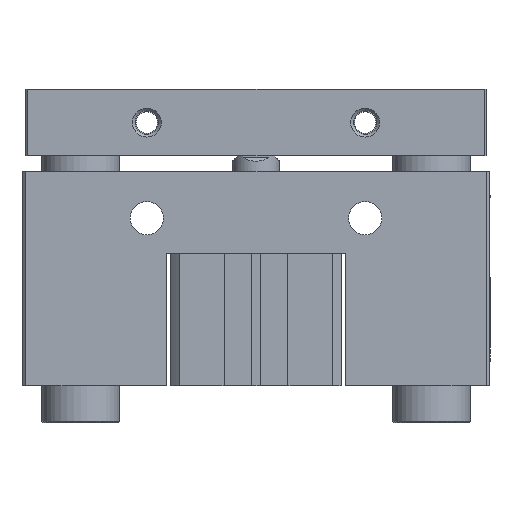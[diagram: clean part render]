
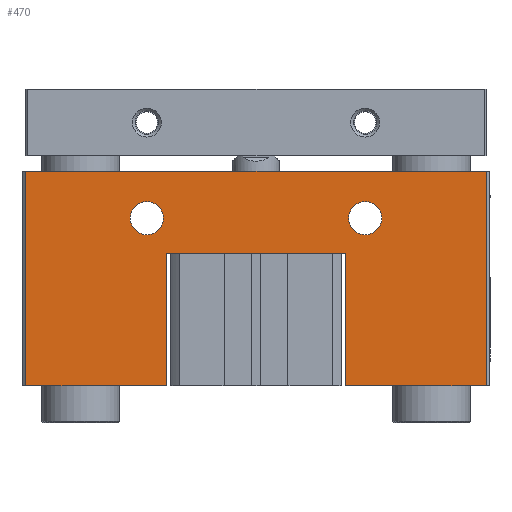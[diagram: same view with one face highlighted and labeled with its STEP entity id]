
A CAD part, front view. The second image highlights one B-rep face of the part: STEP entity #470.
In plain terms, the highlighted planar face has unit normal (0, -1, 0).
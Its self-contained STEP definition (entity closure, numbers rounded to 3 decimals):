
#199=CARTESIAN_POINT('',(-62.726,-23.62,55.));
#200=VERTEX_POINT('',#199);
#207=CARTESIAN_POINT('',(55.274,-23.62,55.));
#208=VERTEX_POINT('',#207);
#209=CARTESIAN_POINT('',(-62.726,-23.62,55.));
#210=DIRECTION('',(1.0,0.0,0.0));
#211=VECTOR('',#210,118.);
#212=LINE('',#209,#211);
#213=EDGE_CURVE('',#200,#208,#212,.T.);
#376=CARTESIAN_POINT('',(-62.726,-23.62,0.));
#377=VERTEX_POINT('',#376);
#384=CARTESIAN_POINT('',(-62.726,-23.62,0.));
#385=DIRECTION('',(0.0,0.0,1.0));
#386=VECTOR('',#385,55.);
#387=LINE('',#384,#386);
#388=EDGE_CURVE('',#377,#200,#387,.T.);
#393=CARTESIAN_POINT('',(-3.726,-23.62,29.533));
#394=DIRECTION('',(0.0,1.0,0.0));
#395=DIRECTION('',(0.0,0.0,1.0));
#396=AXIS2_PLACEMENT_3D('',#393,#394,#395);
#397=PLANE('',#396);
#398=ORIENTED_EDGE('',*,*,#388,.F.);
#399=CARTESIAN_POINT('',(-26.726,-23.62,0.));
#400=VERTEX_POINT('',#399);
#401=CARTESIAN_POINT('',(-26.726,-23.62,0.));
#402=DIRECTION('',(-1.0,0.0,0.0));
#403=VECTOR('',#402,36.);
#404=LINE('',#401,#403);
#405=EDGE_CURVE('',#400,#377,#404,.T.);
#406=ORIENTED_EDGE('',*,*,#405,.F.);
#407=CARTESIAN_POINT('',(-26.726,-23.62,34.0));
#408=VERTEX_POINT('',#407);
#409=CARTESIAN_POINT('',(-26.726,-23.62,34.0));
#410=DIRECTION('',(0.0,0.0,-1.0));
#411=VECTOR('',#410,34.);
#412=LINE('',#409,#411);
#413=EDGE_CURVE('',#408,#400,#412,.T.);
#414=ORIENTED_EDGE('',*,*,#413,.F.);
#415=CARTESIAN_POINT('',(19.274,-23.62,34.0));
#416=VERTEX_POINT('',#415);
#417=CARTESIAN_POINT('',(19.274,-23.62,34.0));
#418=DIRECTION('',(-1.0,0.0,0.0));
#419=VECTOR('',#418,46.);
#420=LINE('',#417,#419);
#421=EDGE_CURVE('',#416,#408,#420,.T.);
#422=ORIENTED_EDGE('',*,*,#421,.F.);
#423=CARTESIAN_POINT('',(19.274,-23.62,0.));
#424=VERTEX_POINT('',#423);
#425=CARTESIAN_POINT('',(19.274,-23.62,0.));
#426=DIRECTION('',(0.0,0.0,1.0));
#427=VECTOR('',#426,34.);
#428=LINE('',#425,#427);
#429=EDGE_CURVE('',#424,#416,#428,.T.);
#430=ORIENTED_EDGE('',*,*,#429,.F.);
#431=CARTESIAN_POINT('',(55.274,-23.62,0.));
#432=VERTEX_POINT('',#431);
#433=CARTESIAN_POINT('',(55.274,-23.62,0.));
#434=DIRECTION('',(-1.0,0.0,0.0));
#435=VECTOR('',#434,36.);
#436=LINE('',#433,#435);
#437=EDGE_CURVE('',#432,#424,#436,.T.);
#438=ORIENTED_EDGE('',*,*,#437,.F.);
#439=CARTESIAN_POINT('',(55.274,-23.62,55.));
#440=DIRECTION('',(0.0,0.0,-1.0));
#441=VECTOR('',#440,55.);
#442=LINE('',#439,#441);
#443=EDGE_CURVE('',#208,#432,#442,.T.);
#444=ORIENTED_EDGE('',*,*,#443,.F.);
#445=ORIENTED_EDGE('',*,*,#213,.F.);
#446=EDGE_LOOP('',(#398,#406,#414,#422,#430,#438,#444,#445));
#447=FACE_OUTER_BOUND('',#446,.T.);
#448=CARTESIAN_POINT('',(-35.976,-23.62,43.));
#449=VERTEX_POINT('',#448);
#450=CARTESIAN_POINT('',(-31.726,-23.62,43.));
#451=DIRECTION('',(0.0,1.0,0.0));
#452=DIRECTION('',(1.0,0.0,0.0));
#453=AXIS2_PLACEMENT_3D('',#450,#451,#452);
#454=CIRCLE('',#453,4.25);
#455=EDGE_CURVE('',#449,#449,#454,.T.);
#456=ORIENTED_EDGE('',*,*,#455,.T.);
#457=EDGE_LOOP('',(#456));
#458=FACE_BOUND('',#457,.T.);
#459=CARTESIAN_POINT('',(20.024,-23.62,43.));
#460=VERTEX_POINT('',#459);
#461=CARTESIAN_POINT('',(24.274,-23.62,43.));
#462=DIRECTION('',(0.0,1.0,0.0));
#463=DIRECTION('',(1.0,0.0,0.0));
#464=AXIS2_PLACEMENT_3D('',#461,#462,#463);
#465=CIRCLE('',#464,4.25);
#466=EDGE_CURVE('',#460,#460,#465,.T.);
#467=ORIENTED_EDGE('',*,*,#466,.T.);
#468=EDGE_LOOP('',(#467));
#469=FACE_BOUND('',#468,.T.);
#470=ADVANCED_FACE('',(#447,#458,#469),#397,.F.);
